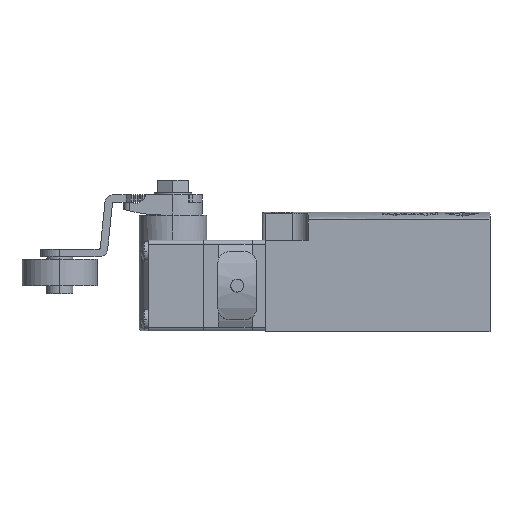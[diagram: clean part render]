
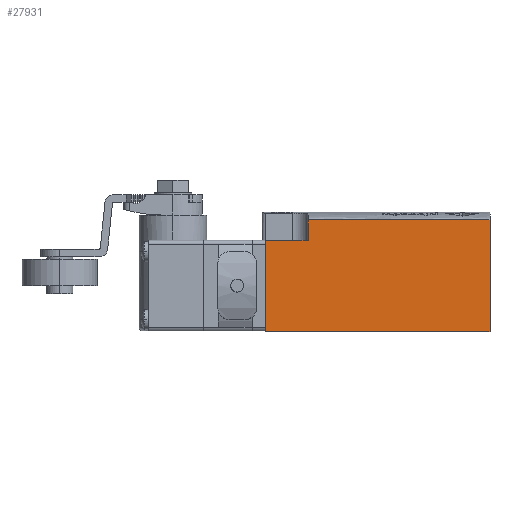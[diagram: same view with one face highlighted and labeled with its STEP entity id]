
A CAD part, left-side view. The second image highlights one B-rep face of the part: STEP entity #27931.
In plain terms, the highlighted planar face has unit normal (-1, 0, 0).
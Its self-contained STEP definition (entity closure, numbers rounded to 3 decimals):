
#18 = VERTEX_POINT ( 'NONE', #7165 ) ;
#135 = LINE ( 'NONE', #14130, #8322 ) ;
#276 = VERTEX_POINT ( 'NONE', #3894 ) ;
#723 = EDGE_CURVE ( 'NONE', #18, #276, #27472, .T. ) ;
#843 = CARTESIAN_POINT ( 'NONE',  ( -15.6, 28., 12. ) ) ;
#892 = CARTESIAN_POINT ( 'NONE',  ( -15.6, -31.5, 19.4 ) ) ;
#1060 = ORIENTED_EDGE ( 'NONE', *, *, #7967, .F. ) ;
#1084 = DIRECTION ( 'NONE',  ( 0., 1., 0. ) ) ;
#1962 = CARTESIAN_POINT ( 'NONE',  ( -15.6, 28., 19.4 ) ) ;
#2522 = EDGE_CURVE ( 'NONE', #15347, #18, #23507, .T. ) ;
#2689 = CARTESIAN_POINT ( 'NONE',  ( -15.6, -31.5, 17.4 ) ) ;
#3288 = VERTEX_POINT ( 'NONE', #5418 ) ;
#3531 = VECTOR ( 'NONE', #10237, 1000. ) ;
#3712 = EDGE_CURVE ( 'NONE', #19830, #3288, #11036, .T. ) ;
#3894 = CARTESIAN_POINT ( 'NONE',  ( -15.6, -31.5, -12.2 ) ) ;
#4978 = ORIENTED_EDGE ( 'NONE', *, *, #3712, .T. ) ;
#5418 = CARTESIAN_POINT ( 'NONE',  ( -15.6, 16.7, 17.4 ) ) ;
#6469 = DIRECTION ( 'NONE',  ( 1., 0., 0. ) ) ;
#7165 = CARTESIAN_POINT ( 'NONE',  ( -15.6, 28., -12.2 ) ) ;
#7967 = EDGE_CURVE ( 'NONE', #29110, #3288, #135, .T. ) ;
#8322 = VECTOR ( 'NONE', #11101, 1000. ) ;
#8369 = ORIENTED_EDGE ( 'NONE', *, *, #31664, .F. ) ;
#9533 = PLANE ( 'NONE',  #22235 ) ;
#9561 = VECTOR ( 'NONE', #32422, 1000. ) ;
#10237 = DIRECTION ( 'NONE',  ( 0., 0., -1. ) ) ;
#10396 = LINE ( 'NONE', #21494, #9561 ) ;
#10712 = VECTOR ( 'NONE', #28804, 1000. ) ;
#11036 = B_SPLINE_CURVE_WITH_KNOTS ( 'NONE', 3,
 ( #2689, #13641, #24576, #30635 ),
 .UNSPECIFIED., .F., .F.,
 ( 4, 4 ),
 ( 0., 1. ),
 .UNSPECIFIED. ) ;
#11101 = DIRECTION ( 'NONE',  ( 0., 0., 1. ) ) ;
#13641 = CARTESIAN_POINT ( 'NONE',  ( -15.6, -15.433, 17.4 ) ) ;
#14130 = CARTESIAN_POINT ( 'NONE',  ( -15.6, 16.7, 12. ) ) ;
#14461 = ORIENTED_EDGE ( 'NONE', *, *, #17235, .F. ) ;
#15347 = VERTEX_POINT ( 'NONE', #25288 ) ;
#17235 = EDGE_CURVE ( 'NONE', #15347, #29110, #17715, .T. ) ;
#17715 = LINE ( 'NONE', #843, #10712 ) ;
#17950 = EDGE_LOOP ( 'NONE', ( #8369, #4978, #1060, #14461, #20645, #25898 ) ) ;
#19240 = DIRECTION ( 'NONE',  ( 0., -1., 0. ) ) ;
#19830 = VERTEX_POINT ( 'NONE', #21314 ) ;
#19887 = CARTESIAN_POINT ( 'NONE',  ( -15.6, 16.7, 12. ) ) ;
#20645 = ORIENTED_EDGE ( 'NONE', *, *, #2522, .T. ) ;
#21222 = VECTOR ( 'NONE', #19240, 1000. ) ;
#21314 = CARTESIAN_POINT ( 'NONE',  ( -15.6, -31.5, 17.4 ) ) ;
#21494 = CARTESIAN_POINT ( 'NONE',  ( -15.6, -31.5, 19.4 ) ) ;
#22235 = AXIS2_PLACEMENT_3D ( 'NONE', #892, #6469, #1084 ) ;
#23507 = LINE ( 'NONE', #1962, #3531 ) ;
#24576 = CARTESIAN_POINT ( 'NONE',  ( -15.6, 0.633, 17.4 ) ) ;
#24782 = CARTESIAN_POINT ( 'NONE',  ( -15.6, -31.5, -12.2 ) ) ;
#25288 = CARTESIAN_POINT ( 'NONE',  ( -15.6, 28., 12. ) ) ;
#25467 = FACE_OUTER_BOUND ( 'NONE', #17950, .T. ) ;
#25898 = ORIENTED_EDGE ( 'NONE', *, *, #723, .T. ) ;
#27472 = LINE ( 'NONE', #24782, #21222 ) ;
#27931 = ADVANCED_FACE ( 'NONE', ( #25467 ), #9533, .F. ) ;
#28804 = DIRECTION ( 'NONE',  ( 0., -1., 0. ) ) ;
#29110 = VERTEX_POINT ( 'NONE', #19887 ) ;
#30635 = CARTESIAN_POINT ( 'NONE',  ( -15.6, 16.7, 17.4 ) ) ;
#31664 = EDGE_CURVE ( 'NONE', #19830, #276, #10396, .T. ) ;
#32422 = DIRECTION ( 'NONE',  ( 0., 0., -1. ) ) ;
